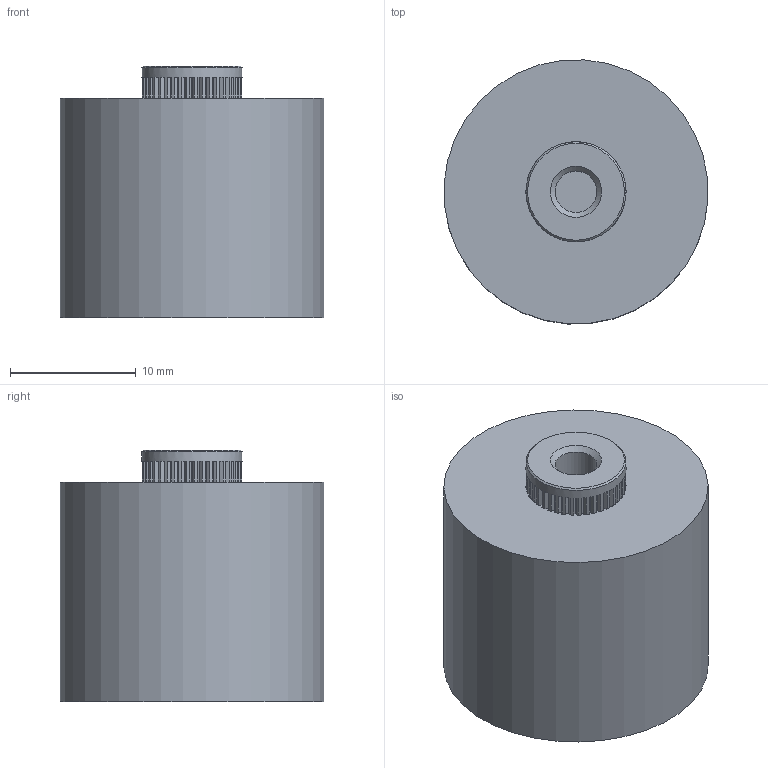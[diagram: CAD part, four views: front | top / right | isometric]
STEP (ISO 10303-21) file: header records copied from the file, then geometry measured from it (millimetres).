
FILE_DESCRIPTION((''),'2;1');
FILE_NAME('I:\Marketing\M6t1\M6T1 - Internal\Drawings\Werk 3\Finished product\Ceramite\Upload for homepage\715\Unterordner\715C15KTT37\715C15KTT37.stp','2013-06-10T14:09:20',('sherden'),(''),'Autodesk Inventor 2013','Autodesk Inventor 2013','');
FILE_SCHEMA(('AUTOMOTIVE_DESIGN { 1 2 10303 214 0 1 1 1 }'));
Length unit declared in the file: millimetre
Products named in the file (1): 715C15KTT37
Bounding box: 20.96 x 20.96 x 20 mm (x, y, z)
Volume: 6078.8 mm3; surface area: 2197.2 mm2
Topology: 1 solids, 41 shells, 573 faces, 1419 edges, 932 vertices
Faces by surface type: plane 486, cylinder 84, cone 3
Full cylindrical faces by diameter (mm): 3.302 x2, 7.95 x1, 21 x1
Entity records: 17304 total; most frequent: CARTESIAN_POINT 2916, ORIENTED_EDGE 2822, DIRECTION 2810, EDGE_CURVE 1411, VECTOR 1160, LINE 1160, VERTEX_POINT 931, AXIS2_PLACEMENT_3D 825
